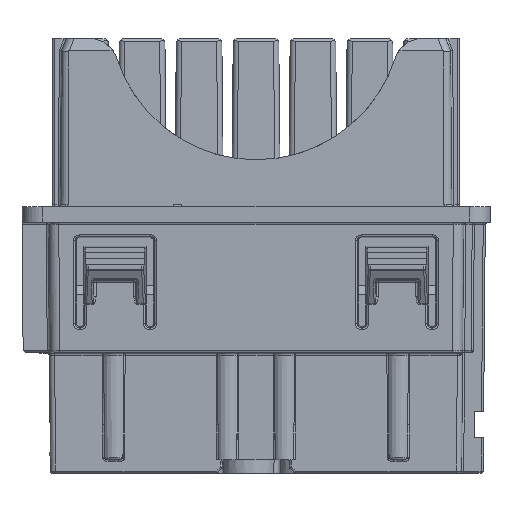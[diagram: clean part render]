
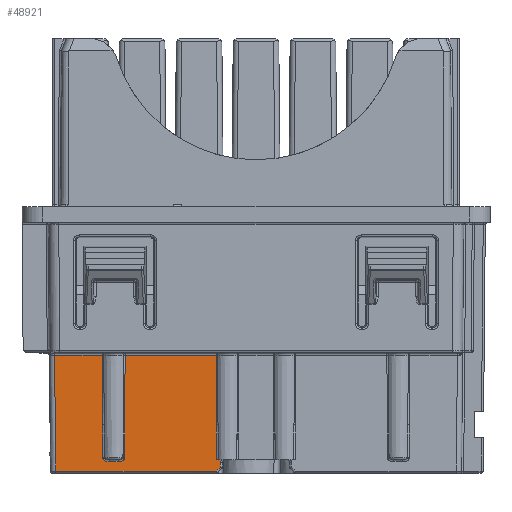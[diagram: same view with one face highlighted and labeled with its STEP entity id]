
A CAD part, top view. The second image highlights one B-rep face of the part: STEP entity #48921.
In plain terms, the highlighted planar face has unit normal (0, -0.009, 1).
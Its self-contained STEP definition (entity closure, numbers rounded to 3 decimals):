
#3434=ELLIPSE('',#53670,0.5,0.5);
#3435=ELLIPSE('',#53677,0.522,0.4);
#3436=ELLIPSE('',#53684,0.522,0.4);
#5453=B_SPLINE_CURVE_WITH_KNOTS('',3,(#86609,#86610,#86611,#86612),
 .UNSPECIFIED.,.F.,.F.,(4,4),(0.,0.007),.UNSPECIFIED.);
#5454=B_SPLINE_CURVE_WITH_KNOTS('',3,(#86649,#86650,#86651,#86652,#86653),
 .UNSPECIFIED.,.F.,.F.,(4,1,4),(0.,0.,0.001),
 .UNSPECIFIED.);
#5455=B_SPLINE_CURVE_WITH_KNOTS('',3,(#86677,#86678,#86679,#86680,#86681),
 .UNSPECIFIED.,.F.,.F.,(4,1,4),(0.,0.,0.001),
 .UNSPECIFIED.);
#5456=B_SPLINE_CURVE_WITH_KNOTS('',3,(#86713,#86714,#86715,#86716),
 .UNSPECIFIED.,.F.,.F.,(4,4),(0.,0.007),.UNSPECIFIED.);
#5457=B_SPLINE_CURVE_WITH_KNOTS('',3,(#86732,#86733,#86734,#86735),
 .UNSPECIFIED.,.F.,.F.,(4,4),(0.,0.007),.UNSPECIFIED.);
#16833=ORIENTED_EDGE('',*,*,#25867,.T.);
#16834=ORIENTED_EDGE('',*,*,#25864,.T.);
#16835=ORIENTED_EDGE('',*,*,#25862,.T.);
#16836=ORIENTED_EDGE('',*,*,#25861,.T.);
#16837=ORIENTED_EDGE('',*,*,#25860,.T.);
#16838=ORIENTED_EDGE('',*,*,#25858,.T.);
#16839=ORIENTED_EDGE('',*,*,#25856,.T.);
#16840=ORIENTED_EDGE('',*,*,#25853,.T.);
#16841=ORIENTED_EDGE('',*,*,#25851,.T.);
#16842=ORIENTED_EDGE('',*,*,#25849,.T.);
#16843=ORIENTED_EDGE('',*,*,#25847,.T.);
#16844=ORIENTED_EDGE('',*,*,#25845,.T.);
#16845=ORIENTED_EDGE('',*,*,#25842,.T.);
#16846=ORIENTED_EDGE('',*,*,#26154,.T.);
#16847=ORIENTED_EDGE('',*,*,#26155,.T.);
#16848=ORIENTED_EDGE('',*,*,#26156,.T.);
#16849=ORIENTED_EDGE('',*,*,#25868,.T.);
#16850=ORIENTED_EDGE('',*,*,#25840,.T.);
#16851=ORIENTED_EDGE('',*,*,#26102,.T.);
#25840=EDGE_CURVE('',#31015,#31014,#3434,.F.);
#25842=EDGE_CURVE('',#30751,#31016,#34837,.T.);
#25845=EDGE_CURVE('',#31018,#30751,#5453,.T.);
#25847=EDGE_CURVE('',#31019,#31018,#34839,.F.);
#25849=EDGE_CURVE('',#31020,#31019,#3435,.F.);
#25851=EDGE_CURVE('',#31021,#31020,#5454,.T.);
#25853=EDGE_CURVE('',#31022,#31021,#34840,.F.);
#25856=EDGE_CURVE('',#31023,#31022,#5455,.T.);
#25858=EDGE_CURVE('',#31024,#31023,#3436,.F.);
#25860=EDGE_CURVE('',#31025,#31024,#34841,.T.);
#25861=EDGE_CURVE('',#30764,#31025,#5456,.T.);
#25862=EDGE_CURVE('',#30765,#30764,#34842,.T.);
#25864=EDGE_CURVE('',#31026,#30765,#5457,.T.);
#25867=EDGE_CURVE('',#31027,#31026,#34844,.T.);
#25868=EDGE_CURVE('',#31028,#31015,#34845,.T.);
#26102=EDGE_CURVE('',#31014,#31027,#34967,.T.);
#26154=EDGE_CURVE('',#31016,#31203,#34992,.F.);
#26155=EDGE_CURVE('',#31203,#31204,#34993,.T.);
#26156=EDGE_CURVE('',#31204,#31028,#34994,.T.);
#30751=VERTEX_POINT('',#84921);
#30764=VERTEX_POINT('',#84976);
#30765=VERTEX_POINT('',#84981);
#31014=VERTEX_POINT('',#86587);
#31015=VERTEX_POINT('',#86589);
#31016=VERTEX_POINT('',#86593);
#31018=VERTEX_POINT('',#86613);
#31019=VERTEX_POINT('',#86617);
#31020=VERTEX_POINT('',#86632);
#31021=VERTEX_POINT('',#86654);
#31022=VERTEX_POINT('',#86658);
#31023=VERTEX_POINT('',#86676);
#31024=VERTEX_POINT('',#86695);
#31025=VERTEX_POINT('',#86699);
#31026=VERTEX_POINT('',#86736);
#31027=VERTEX_POINT('',#86740);
#31028=VERTEX_POINT('',#86744);
#31203=VERTEX_POINT('',#87752);
#31204=VERTEX_POINT('',#87754);
#34837=LINE('',#86592,#38523);
#34839=LINE('',#86616,#38525);
#34840=LINE('',#86657,#38526);
#34841=LINE('',#86700,#38527);
#34842=LINE('',#86718,#38528);
#34844=LINE('',#86741,#38530);
#34845=LINE('',#86743,#38531);
#34967=LINE('',#87569,#38653);
#34992=LINE('',#87751,#38678);
#34993=LINE('',#87753,#38679);
#34994=LINE('',#87755,#38680);
#38523=VECTOR('',#66016,1000.);
#38525=VECTOR('',#66024,1000.);
#38526=VECTOR('',#66035,1000.);
#38527=VECTOR('',#66048,1000.);
#38528=VECTOR('',#66051,1000.);
#38530=VECTOR('',#66059,1000.);
#38531=VECTOR('',#66062,1000.);
#38653=VECTOR('',#66482,1000.);
#38678=VECTOR('',#66559,1000.);
#38679=VECTOR('',#66560,1000.);
#38680=VECTOR('',#66561,1000.);
#41759=EDGE_LOOP('',(#16833,#16834,#16835,#16836,#16837,#16838,#16839,#16840,
#16841,#16842,#16843,#16844,#16845,#16846,#16847,#16848,#16849,#16850,#16851));
#44845=FACE_BOUND('',#41759,.T.);
#46350=PLANE('',#53866);
#48921=ADVANCED_FACE('',(#44845),#46350,.T.);
#53670=AXIS2_PLACEMENT_3D('',#86588,#66010,#66011);
#53677=AXIS2_PLACEMENT_3D('',#86631,#66027,#66028);
#53684=AXIS2_PLACEMENT_3D('',#86696,#66042,#66043);
#53866=AXIS2_PLACEMENT_3D('',#87750,#66557,#66558);
#66010=DIRECTION('',(0.,-0.009,1.));
#66011=DIRECTION('',(0.,1.,0.009));
#66016=DIRECTION('',(-1.,0.,0.));
#66024=DIRECTION('',(0.004,-1.,-0.009));
#66027=DIRECTION('',(0.,-0.009,1.));
#66028=DIRECTION('',(-1.,-0.01,0.));
#66035=DIRECTION('',(1.,0.,0.));
#66042=DIRECTION('',(0.,-0.009,1.));
#66043=DIRECTION('',(-1.,0.01,0.));
#66048=DIRECTION('',(-0.004,-1.,-0.009));
#66051=DIRECTION('',(-1.,0.,0.));
#66059=DIRECTION('',(-0.004,1.,0.009));
#66062=DIRECTION('',(0.009,1.,0.009));
#66482=DIRECTION('',(-1.,0.,0.));
#66557=DIRECTION('',(0.,-0.009,1.));
#66558=DIRECTION('',(0.,-1.,-0.009));
#66559=DIRECTION('',(-0.009,1.,0.009));
#66560=DIRECTION('',(1.,0.,0.));
#66561=DIRECTION('',(0.707,0.707,0.006));
#84921=CARTESIAN_POINT('',(-14.717,7.302,8.698));
#84976=CARTESIAN_POINT('',(-12.533,7.302,8.698));
#84981=CARTESIAN_POINT('',(-3.817,7.302,8.698));
#86587=CARTESIAN_POINT('',(-3.301,-2.7,8.611));
#86588=CARTESIAN_POINT('',(-2.903,-3.002,8.608));
#86589=CARTESIAN_POINT('',(-3.403,-2.997,8.608));
#86592=CARTESIAN_POINT('',(-19.278,7.302,8.698));
#86593=CARTESIAN_POINT('',(-19.276,7.302,8.698));
#86609=CARTESIAN_POINT('',(-14.69,0.622,8.64));
#86610=CARTESIAN_POINT('',(-14.699,2.849,8.659));
#86611=CARTESIAN_POINT('',(-14.708,5.075,8.679));
#86612=CARTESIAN_POINT('',(-14.717,7.302,8.698));
#86613=CARTESIAN_POINT('',(-14.69,0.622,8.64));
#86616=CARTESIAN_POINT('',(-14.718,7.44,8.699));
#86617=CARTESIAN_POINT('',(-14.678,-2.502,8.613));
#86631=CARTESIAN_POINT('',(-14.155,-2.498,8.613));
#86632=CARTESIAN_POINT('',(-14.657,-2.613,8.612));
#86649=CARTESIAN_POINT('',(-14.053,-2.898,8.609));
#86650=CARTESIAN_POINT('',(-14.171,-2.898,8.609));
#86651=CARTESIAN_POINT('',(-14.411,-2.88,8.609));
#86652=CARTESIAN_POINT('',(-14.614,-2.725,8.611));
#86653=CARTESIAN_POINT('',(-14.657,-2.613,8.612));
#86654=CARTESIAN_POINT('',(-14.053,-2.898,8.609));
#86657=CARTESIAN_POINT('',(-14.322,-2.898,8.609));
#86658=CARTESIAN_POINT('',(-13.197,-2.898,8.609));
#86676=CARTESIAN_POINT('',(-12.593,-2.613,8.612));
#86677=CARTESIAN_POINT('',(-12.593,-2.613,8.612));
#86678=CARTESIAN_POINT('',(-12.636,-2.725,8.611));
#86679=CARTESIAN_POINT('',(-12.84,-2.88,8.609));
#86680=CARTESIAN_POINT('',(-13.079,-2.898,8.609));
#86681=CARTESIAN_POINT('',(-13.197,-2.898,8.609));
#86695=CARTESIAN_POINT('',(-12.572,-2.502,8.613));
#86696=CARTESIAN_POINT('',(-13.095,-2.498,8.613));
#86699=CARTESIAN_POINT('',(-12.56,0.622,8.64));
#86700=CARTESIAN_POINT('',(-12.532,7.551,8.7));
#86713=CARTESIAN_POINT('',(-12.533,7.302,8.698));
#86714=CARTESIAN_POINT('',(-12.542,5.075,8.679));
#86715=CARTESIAN_POINT('',(-12.551,2.849,8.659));
#86716=CARTESIAN_POINT('',(-12.56,0.622,8.64));
#86718=CARTESIAN_POINT('',(-12.625,7.302,8.698));
#86732=CARTESIAN_POINT('',(-3.79,0.622,8.64));
#86733=CARTESIAN_POINT('',(-3.799,2.849,8.659));
#86734=CARTESIAN_POINT('',(-3.808,5.075,8.679));
#86735=CARTESIAN_POINT('',(-3.817,7.302,8.698));
#86736=CARTESIAN_POINT('',(-3.79,0.622,8.64));
#86740=CARTESIAN_POINT('',(-3.777,-2.7,8.611));
#86741=CARTESIAN_POINT('',(-3.817,7.301,8.698));
#86743=CARTESIAN_POINT('',(-3.403,-2.996,8.608));
#86744=CARTESIAN_POINT('',(-3.406,-3.425,8.605));
#87569=CARTESIAN_POINT('',(0.,-2.7,8.611));
#87750=CARTESIAN_POINT('',(0.,7.5,8.7));
#87751=CARTESIAN_POINT('',(-19.178,-3.996,8.6));
#87752=CARTESIAN_POINT('',(-19.179,-3.802,8.601));
#87753=CARTESIAN_POINT('',(0.,-3.802,8.601));
#87754=CARTESIAN_POINT('',(-3.783,-3.802,8.601));
#87755=CARTESIAN_POINT('',(3.76,3.741,8.667));
